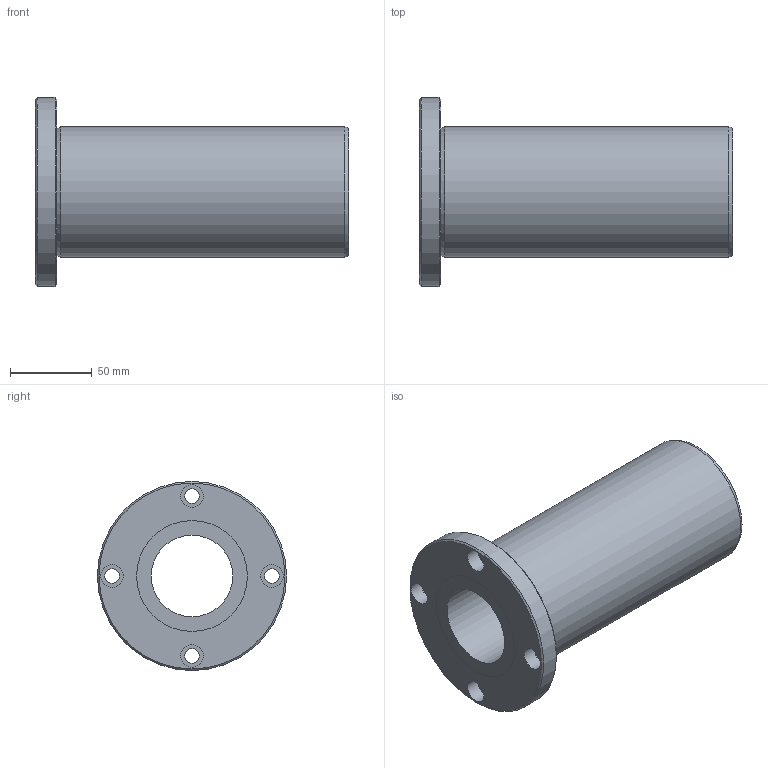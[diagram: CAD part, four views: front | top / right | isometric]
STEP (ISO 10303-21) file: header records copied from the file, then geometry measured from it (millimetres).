
FILE_DESCRIPTION((''),'2;1');
FILE_NAME('D:\製品 (図面)\カタログ用3D\リニアベアリング関連\STEP形式\LFD\LFD50.stp','2010-06-03T09:22:25',('Tsuchiya'),(''),'Autodesk Inventor 10','Autodesk Inventor 10','');
FILE_SCHEMA(('AUTOMOTIVE_DESIGN { 1 0 10303 214 1 1 1 1 }'));
Length unit declared in the file: millimetre
Products named in the file (1): LFD50
Bounding box: 192 x 116 x 116 mm (x, y, z)
Volume: 652379.7 mm3; surface area: 98276.5 mm2
Topology: 1 solids, 1 shells, 26 faces, 47 edges, 30 vertices
Faces by surface type: cylinder 13, plane 9, cone 2, torus 1, bspline 1
Full cylindrical faces by diameter (mm): 9 x4, 14 x4, 50 x1, 68 x2, 80 x1, 116 x1
Entity records: 647 total; most frequent: CARTESIAN_POINT 131, DIRECTION 112, ORIENTED_EDGE 60, EDGE_LOOP 60, AXIS2_PLACEMENT_3D 56, FACE_BOUND 34, VERTEX_POINT 30, CIRCLE 30
